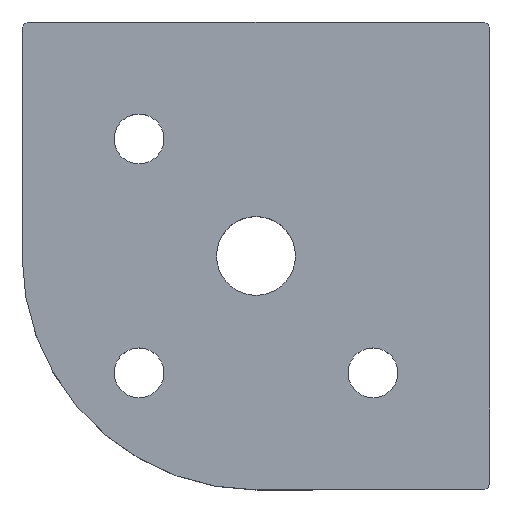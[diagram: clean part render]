
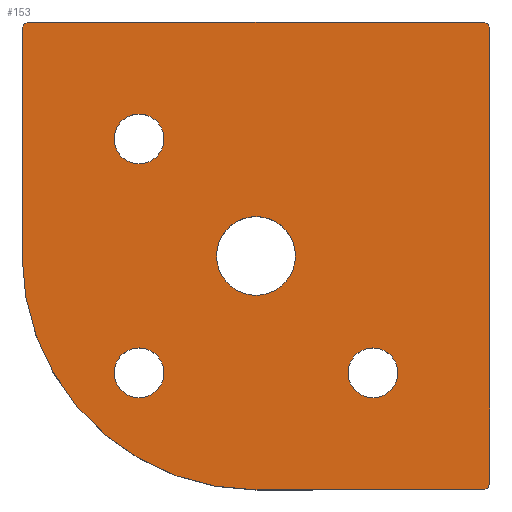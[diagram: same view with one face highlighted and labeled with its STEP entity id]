
A CAD part, top view. The second image highlights one B-rep face of the part: STEP entity #153.
In plain terms, the highlighted planar face has unit normal (0, 0, 1).
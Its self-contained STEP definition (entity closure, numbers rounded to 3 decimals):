
#17 = AXIS2_PLACEMENT_3D ( 'NONE', #605, #604, #603 ) ;
#20 = EDGE_CURVE ( 'NONE', #596, #396, #196, .T. ) ;
#29 = EDGE_CURVE ( 'NONE', #395, #596, #458, .T. ) ;
#30 = EDGE_CURVE ( 'NONE', #602, #591, #457, .T. ) ;
#38 = AXIS2_PLACEMENT_3D ( 'NONE', #703, #723, #720 ) ;
#43 = AXIS2_PLACEMENT_3D ( 'NONE', #724, #738, #739 ) ;
#44 = EDGE_CURVE ( 'NONE', #600, #598, #469, .T. ) ;
#47 = AXIS2_PLACEMENT_3D ( 'NONE', #692, #707, #691 ) ;
#51 = AXIS2_PLACEMENT_3D ( 'NONE', #641, #640, #639 ) ;
#52 = EDGE_CURVE ( 'NONE', #404, #405, #472, .T. ) ;
#61 = EDGE_CURVE ( 'NONE', #591, #602, #477, .T. ) ;
#72 = AXIS2_PLACEMENT_3D ( 'NONE', #645, #644, #643 ) ;
#83 = EDGE_CURVE ( 'NONE', #396, #400, #488, .T. ) ;
#84 = EDGE_CURVE ( 'NONE', #385, #384, #489, .T. ) ;
#91 = AXIS2_PLACEMENT_3D ( 'NONE', #667, #665, #664 ) ;
#92 = AXIS2_PLACEMENT_3D ( 'NONE', #682, #681, #680 ) ;
#96 = EDGE_CURVE ( 'NONE', #402, #403, #211, .T. ) ;
#104 = EDGE_CURVE ( 'NONE', #403, #404, #215, .T. ) ;
#105 = AXIS2_PLACEMENT_3D ( 'NONE', #675, #674, #673 ) ;
#107 = EDGE_CURVE ( 'NONE', #392, #390, #216, .T. ) ;
#115 = AXIS2_PLACEMENT_3D ( 'NONE', #889, #890, #891 ) ;
#121 = EDGE_CURVE ( 'NONE', #384, #385, #221, .T. ) ;
#123 = EDGE_CURVE ( 'NONE', #390, #392, #224, .T. ) ;
#124 = AXIS2_PLACEMENT_3D ( 'NONE', #886, #887, #888 ) ;
#132 = EDGE_CURVE ( 'NONE', #405, #395, #230, .T. ) ;
#134 = AXIS2_PLACEMENT_3D ( 'NONE', #614, #613, #612 ) ;
#145 = EDGE_CURVE ( 'NONE', #400, #402, #240, .T. ) ;
#150 = EDGE_CURVE ( 'NONE', #598, #600, #247, .T. ) ;
#151 = AXIS2_PLACEMENT_3D ( 'NONE', #628, #627, #626 ) ;
#153 = ADVANCED_FACE ( 'NONE', ( #235, #250, #248, #249, #251 ), #885, .T. ) ;
#168 = ORIENTED_EDGE ( 'NONE', *, *, #104, .T. ) ;
#169 = ORIENTED_EDGE ( 'NONE', *, *, #52, .T. ) ;
#170 = ORIENTED_EDGE ( 'NONE', *, *, #132, .T. ) ;
#196 = LINE ( 'NONE', #697, #201 ) ;
#201 = VECTOR ( 'NONE', #710, 1000. ) ;
#211 = CIRCLE ( 'NONE', #151, 1. ) ;
#215 = LINE ( 'NONE', #621, #217 ) ;
#216 = CIRCLE ( 'NONE', #134, 3.2 ) ;
#217 = VECTOR ( 'NONE', #625, 1000. ) ;
#221 = CIRCLE ( 'NONE', #17, 3.2 ) ;
#224 = CIRCLE ( 'NONE', #43, 3.2 ) ;
#230 = LINE ( 'NONE', #714, #233 ) ;
#233 = VECTOR ( 'NONE', #744, 1000. ) ;
#235 = FACE_BOUND ( 'NONE', #301, .T. ) ;
#240 = LINE ( 'NONE', #508, #241 ) ;
#241 = VECTOR ( 'NONE', #504, 1000. ) ;
#247 = CIRCLE ( 'NONE', #124, 5.053 ) ;
#248 = FACE_BOUND ( 'NONE', #444, .T. ) ;
#249 = FACE_BOUND ( 'NONE', #293, .T. ) ;
#250 = FACE_BOUND ( 'NONE', #288, .T. ) ;
#251 = FACE_OUTER_BOUND ( 'NONE', #287, .T. ) ;
#287 = EDGE_LOOP ( 'NONE', ( #316, #317, #318, #319, #320, #168, #169, #170 ) ) ;
#288 = EDGE_LOOP ( 'NONE', ( #584, #585 ) ) ;
#293 = EDGE_LOOP ( 'NONE', ( #314, #315 ) ) ;
#301 = EDGE_LOOP ( 'NONE', ( #582, #583 ) ) ;
#312 = ORIENTED_EDGE ( 'NONE', *, *, #121, .T. ) ;
#313 = ORIENTED_EDGE ( 'NONE', *, *, #84, .T. ) ;
#314 = ORIENTED_EDGE ( 'NONE', *, *, #107, .T. ) ;
#315 = ORIENTED_EDGE ( 'NONE', *, *, #123, .T. ) ;
#316 = ORIENTED_EDGE ( 'NONE', *, *, #29, .T. ) ;
#317 = ORIENTED_EDGE ( 'NONE', *, *, #20, .T. ) ;
#318 = ORIENTED_EDGE ( 'NONE', *, *, #83, .T. ) ;
#319 = ORIENTED_EDGE ( 'NONE', *, *, #145, .T. ) ;
#320 = ORIENTED_EDGE ( 'NONE', *, *, #96, .T. ) ;
#384 = VERTEX_POINT ( 'NONE', #874 ) ;
#385 = VERTEX_POINT ( 'NONE', #869 ) ;
#390 = VERTEX_POINT ( 'NONE', #879 ) ;
#392 = VERTEX_POINT ( 'NONE', #505 ) ;
#395 = VERTEX_POINT ( 'NONE', #782 ) ;
#396 = VERTEX_POINT ( 'NONE', #783 ) ;
#400 = VERTEX_POINT ( 'NONE', #787 ) ;
#402 = VERTEX_POINT ( 'NONE', #789 ) ;
#403 = VERTEX_POINT ( 'NONE', #790 ) ;
#404 = VERTEX_POINT ( 'NONE', #791 ) ;
#405 = VERTEX_POINT ( 'NONE', #792 ) ;
#444 = EDGE_LOOP ( 'NONE', ( #312, #313 ) ) ;
#457 = CIRCLE ( 'NONE', #38, 3.2 ) ;
#458 = CIRCLE ( 'NONE', #47, 30. ) ;
#469 = CIRCLE ( 'NONE', #92, 5.053 ) ;
#472 = CIRCLE ( 'NONE', #105, 1. ) ;
#477 = CIRCLE ( 'NONE', #91, 3.2 ) ;
#488 = CIRCLE ( 'NONE', #72, 1. ) ;
#489 = CIRCLE ( 'NONE', #51, 3.2 ) ;
#504 = DIRECTION ( 'NONE',  ( 0., 1., 0. ) ) ;
#505 = CARTESIAN_POINT ( 'NONE',  ( 11.8, -15., 12. ) ) ;
#508 = CARTESIAN_POINT ( 'NONE',  ( 30., -29., 12. ) ) ;
#582 = ORIENTED_EDGE ( 'NONE', *, *, #150, .T. ) ;
#583 = ORIENTED_EDGE ( 'NONE', *, *, #44, .T. ) ;
#584 = ORIENTED_EDGE ( 'NONE', *, *, #30, .T. ) ;
#585 = ORIENTED_EDGE ( 'NONE', *, *, #61, .T. ) ;
#591 = VERTEX_POINT ( 'NONE', #770 ) ;
#596 = VERTEX_POINT ( 'NONE', #773 ) ;
#598 = VERTEX_POINT ( 'NONE', #775 ) ;
#600 = VERTEX_POINT ( 'NONE', #777 ) ;
#602 = VERTEX_POINT ( 'NONE', #779 ) ;
#603 = DIRECTION ( 'NONE',  ( -1., 0., 0. ) ) ;
#604 = DIRECTION ( 'NONE',  ( 0., 0., -1. ) ) ;
#605 = CARTESIAN_POINT ( 'NONE',  ( -15., -15., 12. ) ) ;
#612 = DIRECTION ( 'NONE',  ( -1., 0., 0. ) ) ;
#613 = DIRECTION ( 'NONE',  ( 0., 0., -1. ) ) ;
#614 = CARTESIAN_POINT ( 'NONE',  ( 15., -15., 12. ) ) ;
#621 = CARTESIAN_POINT ( 'NONE',  ( 29., 30., 12. ) ) ;
#625 = DIRECTION ( 'NONE',  ( -1., 0., 0. ) ) ;
#626 = DIRECTION ( 'NONE',  ( 1., 0., 0. ) ) ;
#627 = DIRECTION ( 'NONE',  ( 0., 0., 1. ) ) ;
#628 = CARTESIAN_POINT ( 'NONE',  ( 29., 29., 12. ) ) ;
#639 = DIRECTION ( 'NONE',  ( -1., 0., 0. ) ) ;
#640 = DIRECTION ( 'NONE',  ( 0., 0., -1. ) ) ;
#641 = CARTESIAN_POINT ( 'NONE',  ( -15., -15., 12. ) ) ;
#643 = DIRECTION ( 'NONE',  ( 1., 0., 0. ) ) ;
#644 = DIRECTION ( 'NONE',  ( 0., 0., 1. ) ) ;
#645 = CARTESIAN_POINT ( 'NONE',  ( 29., -29., 12. ) ) ;
#664 = DIRECTION ( 'NONE',  ( -1., 0., 0. ) ) ;
#665 = DIRECTION ( 'NONE',  ( 0., 0., -1. ) ) ;
#667 = CARTESIAN_POINT ( 'NONE',  ( -15., 15., 12. ) ) ;
#673 = DIRECTION ( 'NONE',  ( 1., 0., 0. ) ) ;
#674 = DIRECTION ( 'NONE',  ( 0., 0., 1. ) ) ;
#675 = CARTESIAN_POINT ( 'NONE',  ( -29., 29., 12. ) ) ;
#680 = DIRECTION ( 'NONE',  ( -1., 0., 0. ) ) ;
#681 = DIRECTION ( 'NONE',  ( 0., 0., -1. ) ) ;
#682 = CARTESIAN_POINT ( 'NONE',  ( 0., 0., 12. ) ) ;
#691 = DIRECTION ( 'NONE',  ( 1., 0., 0. ) ) ;
#692 = CARTESIAN_POINT ( 'NONE',  ( 0., 0., 12. ) ) ;
#697 = CARTESIAN_POINT ( 'NONE',  ( 0., -30., 12. ) ) ;
#703 = CARTESIAN_POINT ( 'NONE',  ( -15., 15., 12. ) ) ;
#707 = DIRECTION ( 'NONE',  ( 0., 0., 1. ) ) ;
#710 = DIRECTION ( 'NONE',  ( 1., 0., 0. ) ) ;
#714 = CARTESIAN_POINT ( 'NONE',  ( -30., 29., 12. ) ) ;
#720 = DIRECTION ( 'NONE',  ( -1., 0., 0. ) ) ;
#723 = DIRECTION ( 'NONE',  ( 0., 0., -1. ) ) ;
#724 = CARTESIAN_POINT ( 'NONE',  ( 15., -15., 12. ) ) ;
#738 = DIRECTION ( 'NONE',  ( 0., 0., -1. ) ) ;
#739 = DIRECTION ( 'NONE',  ( -1., 0., 0. ) ) ;
#744 = DIRECTION ( 'NONE',  ( 0., -1., 0. ) ) ;
#770 = CARTESIAN_POINT ( 'NONE',  ( -11.8, 15., 12. ) ) ;
#773 = CARTESIAN_POINT ( 'NONE',  ( 0., -30., 12. ) ) ;
#775 = CARTESIAN_POINT ( 'NONE',  ( -5.053, 0., 12. ) ) ;
#777 = CARTESIAN_POINT ( 'NONE',  ( 5.053, 0., 12. ) ) ;
#779 = CARTESIAN_POINT ( 'NONE',  ( -18.2, 15., 12. ) ) ;
#782 = CARTESIAN_POINT ( 'NONE',  ( -30., 0., 12. ) ) ;
#783 = CARTESIAN_POINT ( 'NONE',  ( 29., -30., 12. ) ) ;
#787 = CARTESIAN_POINT ( 'NONE',  ( 30., -29., 12. ) ) ;
#789 = CARTESIAN_POINT ( 'NONE',  ( 30., 29., 12. ) ) ;
#790 = CARTESIAN_POINT ( 'NONE',  ( 29., 30., 12. ) ) ;
#791 = CARTESIAN_POINT ( 'NONE',  ( -29., 30., 12. ) ) ;
#792 = CARTESIAN_POINT ( 'NONE',  ( -30., 29., 12. ) ) ;
#869 = CARTESIAN_POINT ( 'NONE',  ( -11.8, -15., 12. ) ) ;
#874 = CARTESIAN_POINT ( 'NONE',  ( -18.2, -15., 12. ) ) ;
#879 = CARTESIAN_POINT ( 'NONE',  ( 18.2, -15., 12. ) ) ;
#885 = PLANE ( 'NONE',  #115 ) ;
#886 = CARTESIAN_POINT ( 'NONE',  ( 0., 0., 12. ) ) ;
#887 = DIRECTION ( 'NONE',  ( 0., 0., -1. ) ) ;
#888 = DIRECTION ( 'NONE',  ( -1., 0., 0. ) ) ;
#889 = CARTESIAN_POINT ( 'NONE',  ( 0., 0., 12. ) ) ;
#890 = DIRECTION ( 'NONE',  ( 0., 0., 1. ) ) ;
#891 = DIRECTION ( 'NONE',  ( 1., 0., 0. ) ) ;
